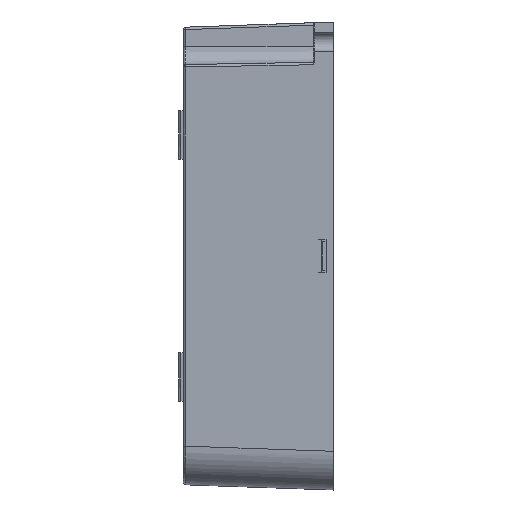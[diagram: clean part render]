
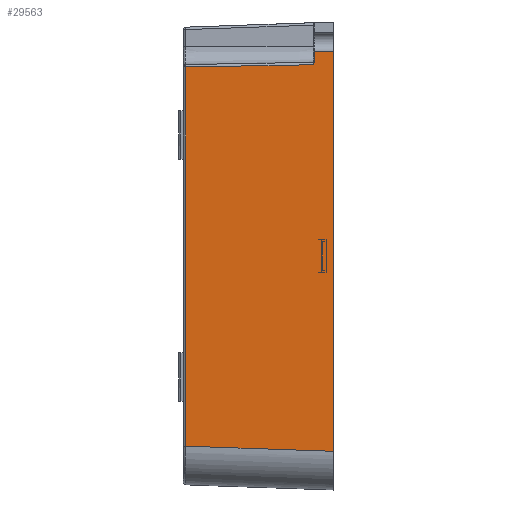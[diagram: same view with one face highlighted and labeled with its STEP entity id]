
A CAD part, left-side view. The second image highlights one B-rep face of the part: STEP entity #29563.
In plain terms, the highlighted planar face has unit normal (-0.999, 0.035, 0).
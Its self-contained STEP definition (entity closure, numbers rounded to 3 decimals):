
#3100=CARTESIAN_POINT('',(0.,0.,-40.355));
#3114=DIRECTION('',(0.,0.,-1.));
#3115=VECTOR('',#3114,2.215);
#3116=CARTESIAN_POINT('',(0.14,4.,42.216));
#3117=LINE('',#3116,#3115);
#3118=DIRECTION('',(-0.035,-0.999,-0.035));
#3119=VECTOR('',#3118,30.555);
#3120=CARTESIAN_POINT('',(1.066,30.517,-39.289));
#3121=LINE('',#3120,#3119);
#3122=DIRECTION('',(0.035,0.999,-0.017));
#3123=VECTOR('',#3122,26.344);
#3124=CARTESIAN_POINT('',(0.146,4.193,39.518));
#3125=LINE('',#3124,#3123);
#3260=DIRECTION('',(0.,0.,-1.));
#3261=VECTOR('',#3260,82.571);
#3262=CARTESIAN_POINT('',(0.,0.,42.216));
#3263=LINE('',#3262,#3261);
#4439=DIRECTION('',(-0.035,-0.999,0.));
#4440=VECTOR('',#4439,4.002);
#4441=CARTESIAN_POINT('',(0.14,4.,42.216));
#4442=LINE('',#4441,#4440);
#11446=DIRECTION('',(0.,0.,1.));
#11447=VECTOR('',#11446,78.348);
#11448=CARTESIAN_POINT('',(1.066,30.517,
-39.289));
#11449=LINE('',#11448,#11447);
#11498=CARTESIAN_POINT('',(0.146,4.193,
39.518));
#11499=CARTESIAN_POINT('',(0.145,4.158,
39.573));
#11500=CARTESIAN_POINT('',(0.143,4.092,
39.68));
#11501=CARTESIAN_POINT('',(0.14,4.019,
39.842));
#11502=CARTESIAN_POINT('',(0.14,4.,
39.948));
#11503=CARTESIAN_POINT('',(0.14,4.,
40.001));
#20951=VERTEX_POINT('',#3100);
#21546=CARTESIAN_POINT('',(0.14,4.,42.216));
#21547=CARTESIAN_POINT('',(0.14,4.,
40.001));
#21548=VERTEX_POINT('',#21546);
#21549=VERTEX_POINT('',#21547);
#22141=CARTESIAN_POINT('',(1.066,30.517,
-39.289));
#22142=CARTESIAN_POINT('',(1.066,30.517,39.059));
#22143=VERTEX_POINT('',#22141);
#22144=VERTEX_POINT('',#22142);
#24017=CARTESIAN_POINT('',(0.,0.,42.216));
#24018=VERTEX_POINT('',#24017);
#25002=CARTESIAN_POINT('',(0.146,4.193,
39.518));
#25003=VERTEX_POINT('',#25002);
#29543=CARTESIAN_POINT('',(0.,0.,-48.35));
#29544=DIRECTION('',(-0.999,0.035,0.));
#29545=DIRECTION('',(-0.035,-0.999,0.));
#29546=AXIS2_PLACEMENT_3D('',#29543,#29544,#29545);
#29547=PLANE('',#29546);
#29549=ORIENTED_EDGE('',*,*,#29548,.F.);
#29551=ORIENTED_EDGE('',*,*,#29550,.T.);
#29553=ORIENTED_EDGE('',*,*,#29552,.T.);
#29554=ORIENTED_EDGE('',*,*,#29532,.F.);
#29556=ORIENTED_EDGE('',*,*,#29555,.T.);
#29558=ORIENTED_EDGE('',*,*,#29557,.F.);
#29560=ORIENTED_EDGE('',*,*,#29559,.T.);
#29561=EDGE_LOOP('',(#29549,#29551,#29553,#29554,#29556,#29558,#29560));
#29562=FACE_OUTER_BOUND('',#29561,.F.);
#29563=ADVANCED_FACE('',(#29562),#29547,.T.);
#11504=B_SPLINE_CURVE_WITH_KNOTS('',3,(#11498,#11499,#11500,#11501,#11502,
#11503),.UNSPECIFIED.,.F.,.F.,(4,1,1,4),(0.,0.333,
0.667,1.),.UNSPECIFIED.);
#29532=EDGE_CURVE('',#22143,#20951,#3121,.T.);
#29548=EDGE_CURVE('',#21548,#21549,#3117,.T.);
#29550=EDGE_CURVE('',#21548,#24018,#4442,.T.);
#29552=EDGE_CURVE('',#24018,#20951,#3263,.T.);
#29555=EDGE_CURVE('',#22143,#22144,#11449,.T.);
#29557=EDGE_CURVE('',#25003,#22144,#3125,.T.);
#29559=EDGE_CURVE('',#25003,#21549,#11504,.T.);
